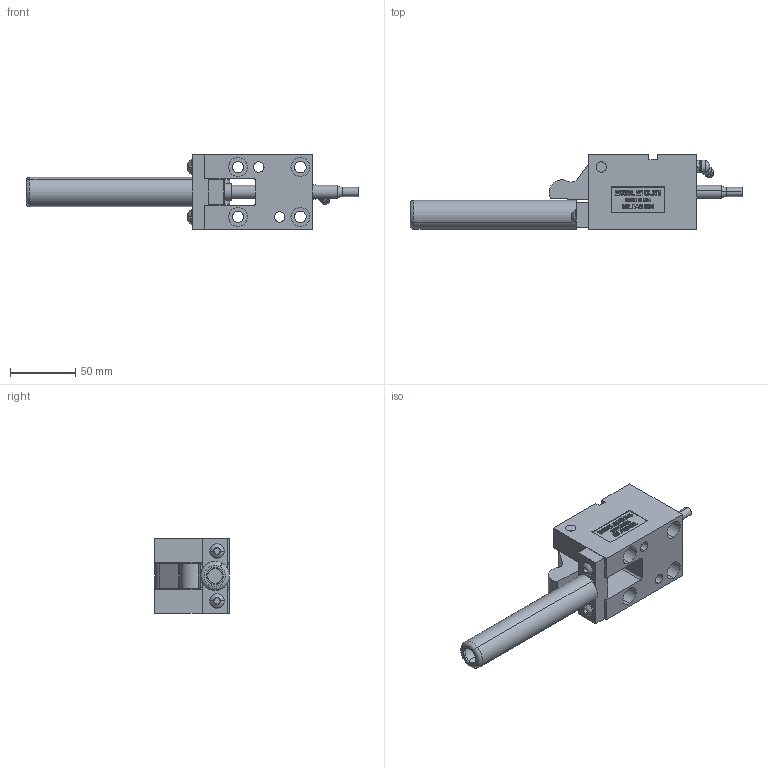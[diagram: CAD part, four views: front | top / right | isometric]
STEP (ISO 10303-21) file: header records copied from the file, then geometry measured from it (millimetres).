
FILE_DESCRIPTION (( 'STEP AP214' ), '1' );
FILE_NAME ('MTOL37545-C.STEP', '2014-01-08T20:06:15', ( 'user' ), ( '' ), 'SwSTEP 2.0', 'SolidWorks 2009', '' );
FILE_SCHEMA (( 'AUTOMOTIVE_DESIGN' ));
Length unit declared in the file: inch
Products named in the file (10): MOL375-PUNCH; 375-OFFSET TRIGGER; OL375-CAGE; M-O-375-POINT; GREASE ZERK; 1-4 SCREW; 375-O-STRAP; 375 PIVOT PIN; MTOL375-BODY; MTOL37545-C
Assembly tree (10 placements, depth 2):
  MTOL37545-C
    M-O-375-POINT
    1-4 SCREW  x2
    MTOL375-BODY
    MOL375-PUNCH
    375-OFFSET TRIGGER
    GREASE ZERK
    OL375-CAGE
    375-O-STRAP
    375 PIVOT PIN
Bounding box: 253.59 x 57.15 x 57.15 mm (x, y, z)
Volume: 236814.1 mm3; surface area: 74949.4 mm2
Topology: 10 solids, 10 shells, 602 faces, 1559 edges, 1026 vertices
Faces by surface type: plane 360, bspline 96, cylinder 94, cone 26, torus 22, sphere 4
Entity records: 23595 total; most frequent: CARTESIAN_POINT 9491, ORIENTED_EDGE 3030, DIRECTION 2463, EDGE_CURVE 1515, VECTOR 1013, LINE 1013, VERTEX_POINT 1000, AXIS2_PLACEMENT_3D 725
